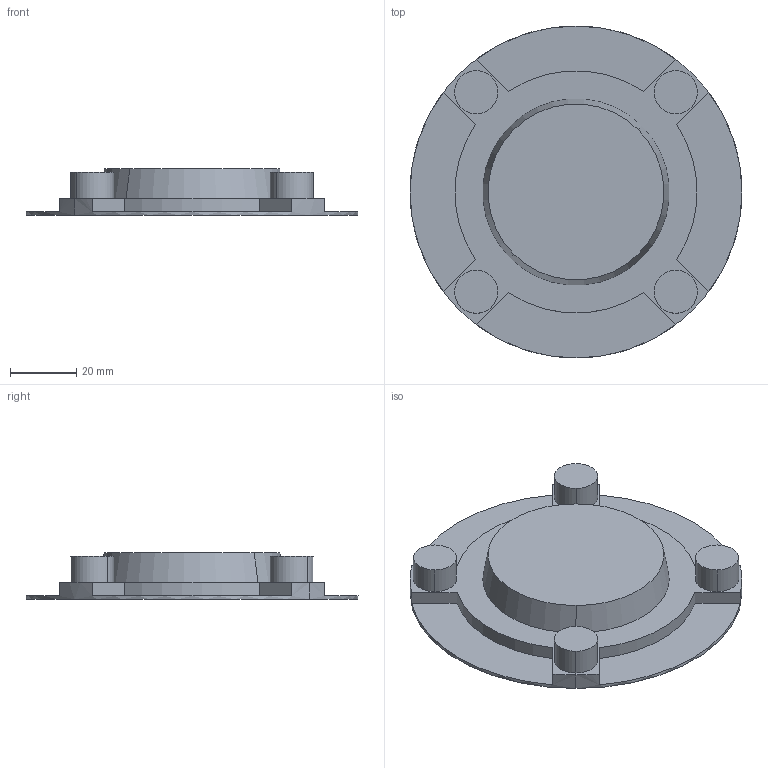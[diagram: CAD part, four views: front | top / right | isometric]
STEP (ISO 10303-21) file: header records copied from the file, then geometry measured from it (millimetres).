
FILE_DESCRIPTION(/* description */ (''),/* implementation_level */ '2;1');
FILE_NAME(/* name */ '7_COPRIMOZZO NMRV050',/* time_stamp */ '2025-10-09T14:40:43+02:00',/* author */ (''),/* organization */ (''),/* preprocessor_version */ 'ST-DEVELOPER v19.2',/* originating_system */ 'Rhino 8.23',/* authorisation */ '');
FILE_SCHEMA (('CONFIG_CONTROL_DESIGN'));
Length unit declared in the file: millimetre
Products named in the file (2): Document; Hollow shaft 50
Bounding box: 100 x 100 x 14 mm (x, y, z)
Volume: 52995.6 mm3; surface area: 19981 mm2
Topology: 1 solids, 1 shells, 35 faces, 84 edges, 56 vertices
Faces by surface type: plane 19, cylinder 14, bspline 2
Entity records: 1368 total; most frequent: CARTESIAN_POINT 321, ORIENTED_EDGE 168, DIRECTION 121, EDGE_CURVE 84, AXIS2_PLACEMENT_3D 77, VERTEX_POINT 56, B_SPLINE_CURVE_WITH_KNOTS 44, EDGE_LOOP 40
